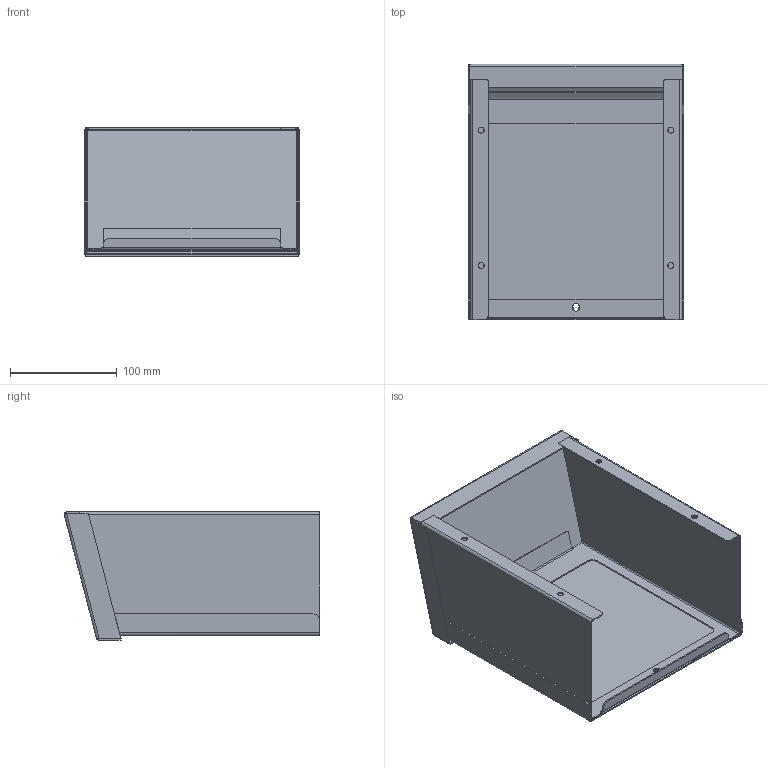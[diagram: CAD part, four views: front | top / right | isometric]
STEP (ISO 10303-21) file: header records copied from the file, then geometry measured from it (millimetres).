
FILE_DESCRIPTION((''),'2;1');
FILE_NAME('MODEL-266_ASM','2019-05-30T09:02:13',('mikek'),('SAGINAW CONTROL & ENGINEERING'),'CREO PARAMETRIC BY PTC INC, 2017260','CREO PARAMETRIC BY PTC INC, 2017260','');
FILE_SCHEMA(('AUTOMOTIVE_DESIGN { 1 0 10303 214 1 1 1 1 }'));
Length unit declared in the file: inch
Products named in the file (4): MODEL-266-BDY; MODEL-266-TP; MODEL-266-CVR; MODEL-266_ASM
Assembly tree (3 placements, depth 2):
  MODEL-266_ASM
    MODEL-266-BDY
    MODEL-266-TP
    MODEL-266-CVR
Bounding box: 202.1 x 239.7 x 120.09 mm (x, y, z)
Volume: 194350.1 mm3; surface area: 323591.1 mm2
Topology: 3 solids, 3 shells, 206 faces, 504 edges, 304 vertices
Faces by surface type: plane 104, cylinder 68, bspline 34
Entity records: 9876 total; most frequent: CARTESIAN_POINT 2253, ORIENTED_EDGE 1008, DIRECTION 942, PRESENTATION_STYLE_ASSIGNMENT 507, STYLED_ITEM 507, CURVE_STYLE 504, EDGE_CURVE 504, VECTOR 336
